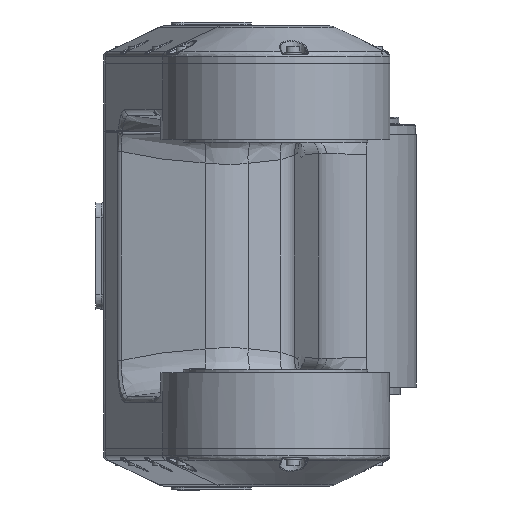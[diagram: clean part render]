
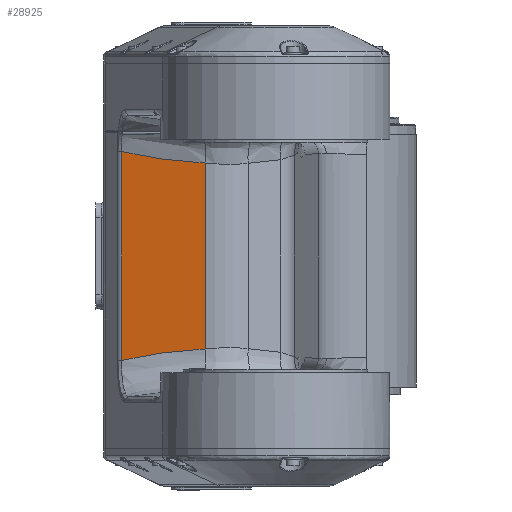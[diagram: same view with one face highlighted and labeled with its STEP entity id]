
A CAD part, front view. The second image highlights one B-rep face of the part: STEP entity #28925.
In plain terms, the highlighted planar face has unit normal (-0.208, -0.978, 0) as drawn and (-0.208, 0, 0.978) by its records, which use the part's own axes.
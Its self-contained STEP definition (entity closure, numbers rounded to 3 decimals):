
#114 = DIRECTION ( 'NONE',  ( 0., -1., 0. ) ) ;
#1443 = CARTESIAN_POINT ( 'NONE',  ( -57.388, 53.368, 720.444 ) ) ;
#2265 = ORIENTED_EDGE ( 'NONE', *, *, #32079, .F. ) ;
#2864 = AXIS2_PLACEMENT_3D ( 'NONE', #15243, #7291, #45242 ) ;
#2878 = CARTESIAN_POINT ( 'NONE',  ( -57.388, -53.368, 720.444 ) ) ;
#3483 = CARTESIAN_POINT ( 'NONE',  ( -59.152, 53.791, 720.069 ) ) ;
#3632 = CARTESIAN_POINT ( 'NONE',  ( -55.621, -52.965, 720.819 ) ) ;
#4323 = CARTESIAN_POINT ( 'NONE',  ( -59.152, 0., 720.069 ) ) ;
#5156 = CARTESIAN_POINT ( 'NONE',  ( -59.152, 53.791, 720.069 ) ) ;
#7291 = DIRECTION ( 'NONE',  ( -0.208, 0., 0.978 ) ) ;
#8642 = CARTESIAN_POINT ( 'NONE',  ( -44.976, 50.873, 723.082 ) ) ;
#10089 = VECTOR ( 'NONE', #34805, 1000. ) ;
#11566 = CARTESIAN_POINT ( 'NONE',  ( -16.237, -47.854, 729.191 ) ) ;
#15243 = CARTESIAN_POINT ( 'NONE',  ( -16.237, 0., 729.191 ) ) ;
#15291 = CARTESIAN_POINT ( 'NONE',  ( -59.152, -53.791, 720.069 ) ) ;
#15744 = B_SPLINE_CURVE_WITH_KNOTS ( 'NONE', 3,
 ( #15291, #37590, #2878, #3632, #26429, #18764, #33883, #41557, #22727, #37846, #11566 ),
 .UNSPECIFIED., .F., .F.,
 ( 4, 2, 1, 2, 2, 4 ),
 ( 0.002, 0.005, 0.008, 0.013, 0.024, 0.046 ),
 .UNSPECIFIED. ) ;
#17885 = VECTOR ( 'NONE', #114, 1000. ) ;
#18073 = VERTEX_POINT ( 'NONE', #43482 ) ;
#18354 = EDGE_CURVE ( 'NONE', #18073, #20080, #15744, .T. ) ;
#18466 = PLANE ( 'NONE',  #2864 ) ;
#18764 = CARTESIAN_POINT ( 'NONE',  ( -50.307, -51.853, 721.949 ) ) ;
#18785 = ORIENTED_EDGE ( 'NONE', *, *, #18354, .T. ) ;
#18970 = LINE ( 'NONE', #4323, #17885 ) ;
#20080 = VERTEX_POINT ( 'NONE', #26555 ) ;
#20261 = B_SPLINE_CURVE_WITH_KNOTS ( 'NONE', 3,
 ( #5156, #35421, #1443, #27230, #42368, #24238, #8642, #23762, #31444, #38884, #28200 ),
 .UNSPECIFIED., .F., .F.,
 ( 4, 2, 1, 2, 2, 4 ),
 ( 0.002, 0.005, 0.008, 0.013, 0.024, 0.046 ),
 .UNSPECIFIED. ) ;
#21401 = EDGE_LOOP ( 'NONE', ( #2265, #35020, #42005, #18785 ) ) ;
#22727 = CARTESIAN_POINT ( 'NONE',  ( -30.671, -48.89, 726.123 ) ) ;
#23762 = CARTESIAN_POINT ( 'NONE',  ( -41.408, 50.316, 723.841 ) ) ;
#24238 = CARTESIAN_POINT ( 'NONE',  ( -50.307, 51.853, 721.949 ) ) ;
#24284 = VERTEX_POINT ( 'NONE', #26365 ) ;
#26133 = FACE_OUTER_BOUND ( 'NONE', #21401, .T. ) ;
#26365 = CARTESIAN_POINT ( 'NONE',  ( -16.237, 47.854, 729.191 ) ) ;
#26429 = CARTESIAN_POINT ( 'NONE',  ( -52.968, -52.38, 721.383 ) ) ;
#26555 = CARTESIAN_POINT ( 'NONE',  ( -16.237, -47.854, 729.191 ) ) ;
#27230 = CARTESIAN_POINT ( 'NONE',  ( -55.621, 52.965, 720.819 ) ) ;
#28200 = CARTESIAN_POINT ( 'NONE',  ( -16.237, 47.854, 729.191 ) ) ;
#28925 = ADVANCED_FACE ( 'NONE', ( #26133 ), #18466, .T. ) ;
#31444 = CARTESIAN_POINT ( 'NONE',  ( -30.671, 48.89, 726.123 ) ) ;
#32079 = EDGE_CURVE ( 'NONE', #24284, #20080, #46695, .T. ) ;
#33883 = CARTESIAN_POINT ( 'NONE',  ( -44.976, -50.873, 723.082 ) ) ;
#34805 = DIRECTION ( 'NONE',  ( 0., -1., 0. ) ) ;
#35020 = ORIENTED_EDGE ( 'NONE', *, *, #39783, .F. ) ;
#35047 = CARTESIAN_POINT ( 'NONE',  ( -16.237, 0., 729.191 ) ) ;
#35421 = CARTESIAN_POINT ( 'NONE',  ( -58.27, 53.579, 720.256 ) ) ;
#37590 = CARTESIAN_POINT ( 'NONE',  ( -58.27, -53.579, 720.256 ) ) ;
#37846 = CARTESIAN_POINT ( 'NONE',  ( -23.469, -48.263, 727.654 ) ) ;
#38729 = EDGE_CURVE ( 'NONE', #39920, #18073, #18970, .T. ) ;
#38884 = CARTESIAN_POINT ( 'NONE',  ( -23.469, 48.263, 727.654 ) ) ;
#39783 = EDGE_CURVE ( 'NONE', #39920, #24284, #20261, .T. ) ;
#39920 = VERTEX_POINT ( 'NONE', #3483 ) ;
#41557 = CARTESIAN_POINT ( 'NONE',  ( -41.408, -50.316, 723.841 ) ) ;
#42005 = ORIENTED_EDGE ( 'NONE', *, *, #38729, .T. ) ;
#42368 = CARTESIAN_POINT ( 'NONE',  ( -52.968, 52.38, 721.383 ) ) ;
#43482 = CARTESIAN_POINT ( 'NONE',  ( -59.152, -53.791, 720.069 ) ) ;
#45242 = DIRECTION ( 'NONE',  ( -0.978, 0., -0.208 ) ) ;
#46695 = LINE ( 'NONE', #35047, #10089 ) ;
